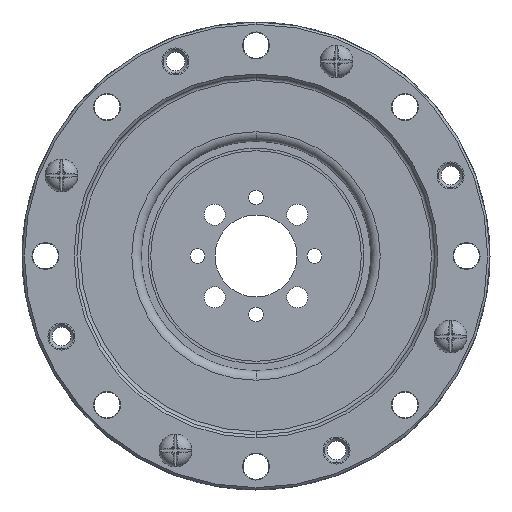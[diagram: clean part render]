
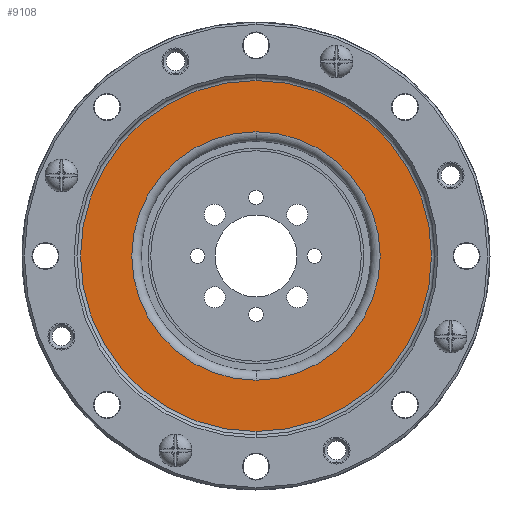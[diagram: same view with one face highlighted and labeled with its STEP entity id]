
A CAD part, left-side view. The second image highlights one B-rep face of the part: STEP entity #9108.
In plain terms, the highlighted planar face has unit normal (-1, 0, 0).
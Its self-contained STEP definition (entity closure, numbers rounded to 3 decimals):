
#501 = DIRECTION ( 'NONE',  ( 1., 0., 0. ) ) ;
#1172 = AXIS2_PLACEMENT_3D ( 'NONE', #4287, #12784, #5541 ) ;
#2437 = VERTEX_POINT ( 'NONE', #3317 ) ;
#2612 = VERTEX_POINT ( 'NONE', #12261 ) ;
#2666 = CIRCLE ( 'NONE', #5558, 10.615 ) ;
#3060 = ORIENTED_EDGE ( 'NONE', *, *, #10921, .T. ) ;
#3275 = FACE_OUTER_BOUND ( 'NONE', #8974, .T. ) ;
#3317 = CARTESIAN_POINT ( 'NONE',  ( -9.44, 0., -15. ) ) ;
#3500 = ORIENTED_EDGE ( 'NONE', *, *, #6217, .T. ) ;
#3774 = VERTEX_POINT ( 'NONE', #6021 ) ;
#3857 = ORIENTED_EDGE ( 'NONE', *, *, #9889, .F. ) ;
#4042 = ORIENTED_EDGE ( 'NONE', *, *, #6094, .F. ) ;
#4211 = EDGE_LOOP ( 'NONE', ( #3500, #3060 ) ) ;
#4287 = CARTESIAN_POINT ( 'NONE',  ( -9.44, 0., 0. ) ) ;
#5541 = DIRECTION ( 'NONE',  ( 0., 0., -1. ) ) ;
#5558 = AXIS2_PLACEMENT_3D ( 'NONE', #15247, #15304, #15391 ) ;
#6021 = CARTESIAN_POINT ( 'NONE',  ( -9.44, 0., 15. ) ) ;
#6094 = EDGE_CURVE ( 'NONE', #2437, #3774, #11013, .T. ) ;
#6217 = EDGE_CURVE ( 'NONE', #12513, #2612, #2666, .T. ) ;
#6726 = DIRECTION ( 'NONE',  ( 1., 0., 0. ) ) ;
#7752 = CIRCLE ( 'NONE', #1172, 15. ) ;
#7782 = CARTESIAN_POINT ( 'NONE',  ( -9.44, 0., 0. ) ) ;
#8574 = FACE_BOUND ( 'NONE', #4211, .T. ) ;
#8837 = CARTESIAN_POINT ( 'NONE',  ( -9.44, 0., -10.615 ) ) ;
#8912 = AXIS2_PLACEMENT_3D ( 'NONE', #9090, #6726, #15243 ) ;
#8974 = EDGE_LOOP ( 'NONE', ( #4042, #3857 ) ) ;
#9016 = DIRECTION ( 'NONE',  ( 0., 0., -1. ) ) ;
#9065 = AXIS2_PLACEMENT_3D ( 'NONE', #12561, #12582, #12645 ) ;
#9090 = CARTESIAN_POINT ( 'NONE',  ( -9.44, -10.615, 0. ) ) ;
#9108 = ADVANCED_FACE ( 'NONE', ( #3275, #8574 ), #13983, .F. ) ;
#9889 = EDGE_CURVE ( 'NONE', #3774, #2437, #7752, .T. ) ;
#10921 = EDGE_CURVE ( 'NONE', #2612, #12513, #11151, .T. ) ;
#11013 = CIRCLE ( 'NONE', #9065, 15. ) ;
#11151 = CIRCLE ( 'NONE', #12666, 10.615 ) ;
#12261 = CARTESIAN_POINT ( 'NONE',  ( -9.44, 0., 10.615 ) ) ;
#12513 = VERTEX_POINT ( 'NONE', #8837 ) ;
#12561 = CARTESIAN_POINT ( 'NONE',  ( -9.44, 0., 0. ) ) ;
#12582 = DIRECTION ( 'NONE',  ( 1., 0., 0. ) ) ;
#12645 = DIRECTION ( 'NONE',  ( 0., 0., -1. ) ) ;
#12666 = AXIS2_PLACEMENT_3D ( 'NONE', #7782, #501, #9016 ) ;
#12784 = DIRECTION ( 'NONE',  ( 1., 0., 0. ) ) ;
#13983 = PLANE ( 'NONE',  #8912 ) ;
#15243 = DIRECTION ( 'NONE',  ( 0., 0., -1. ) ) ;
#15247 = CARTESIAN_POINT ( 'NONE',  ( -9.44, 0., 0. ) ) ;
#15304 = DIRECTION ( 'NONE',  ( 1., 0., 0. ) ) ;
#15391 = DIRECTION ( 'NONE',  ( 0., 0., -1. ) ) ;
